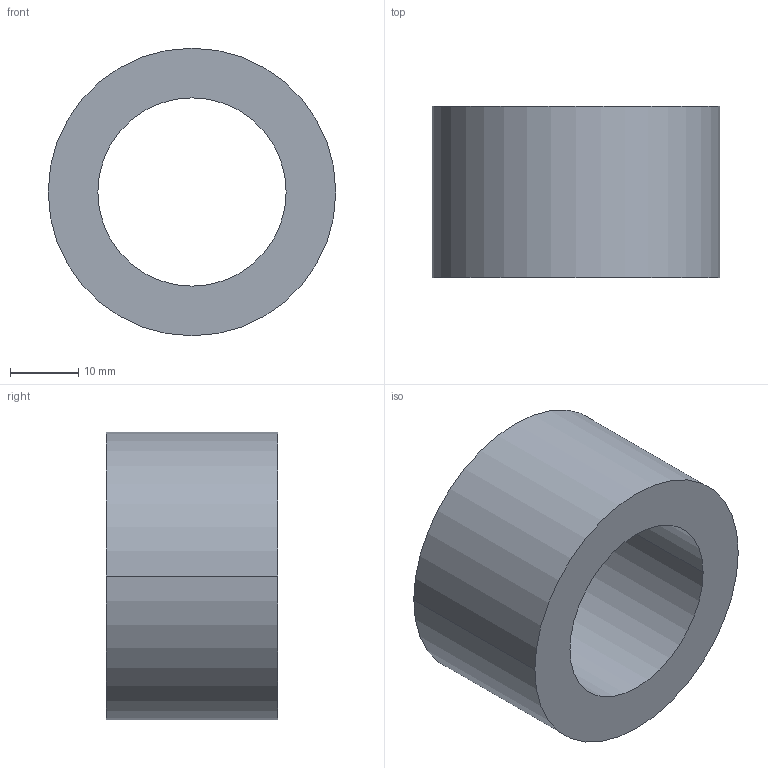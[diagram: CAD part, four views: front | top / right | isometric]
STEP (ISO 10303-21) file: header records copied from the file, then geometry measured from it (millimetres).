
FILE_DESCRIPTION (( 'STEP AP203' ), '1' );
FILE_NAME ('30800.WPP42J27.5.step', '2019-01-23T22:50:18', ( '' ), ( '' ), 'SwSTEP 2.0', 'SolidWorks 2017', '' );
FILE_SCHEMA (( 'CONFIG_CONTROL_DESIGN' ));
Length unit declared in the file: millimetre
Products named in the file (1): 30800.WPP42J27.5
Bounding box: 42 x 25 x 42 mm (x, y, z)
Volume: 19612.1 mm3; surface area: 6934.2 mm2
Topology: 1 solids, 1 shells, 8 faces, 16 edges, 10 vertices
Faces by surface type: cylinder 4, torus 2, plane 2
Entity records: 297 total; most frequent: DIRECTION 46, CARTESIAN_POINT 35, ORIENTED_EDGE 32, AXIS2_PLACEMENT_3D 21, EDGE_CURVE 16, CIRCLE 12, EDGE_LOOP 10, VERTEX_POINT 10
